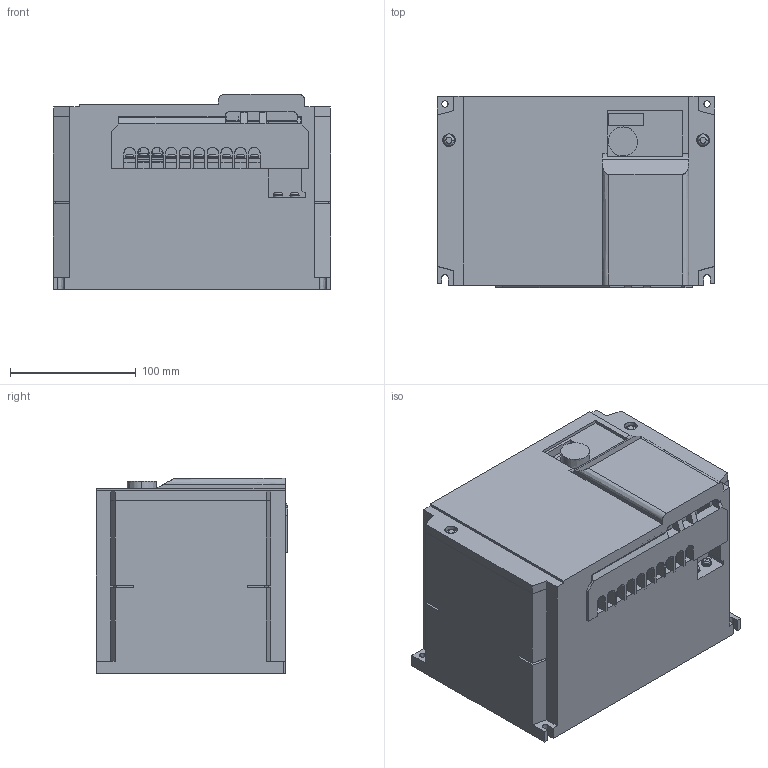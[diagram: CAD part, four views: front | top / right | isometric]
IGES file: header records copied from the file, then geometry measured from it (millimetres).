
Start section:  PTC IGES file: 3d-inv-26_14.igs
Global section: file name: 3d-inv-26_14.igs; native system: Pro/ENGINEER by Parametric Technology Corporation; preprocessor: 2006420; author: HW41538; organization: Unknown; date: 20100907.121900; units: millimetre
Bounding box: 220 x 152.1 x 155 mm (x, y, z)
Volume: 4371017 mm3; surface area: 341091.9 mm2
Topology: 1 solids, 15 shells, 1088 faces, 2987 edges, 1945 vertices
Faces by surface type: bspline 1088
